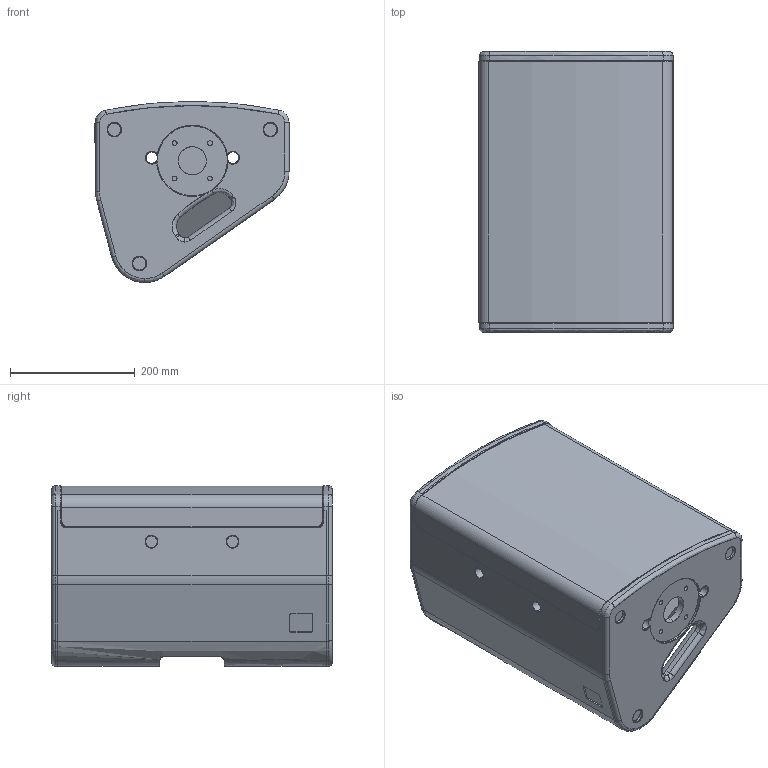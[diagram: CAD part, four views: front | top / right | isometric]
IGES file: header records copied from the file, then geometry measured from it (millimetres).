
Start section: SolidWorks IGES file using analytic representation for surfaces
Global section: file name: C:\Users\Michl\Documents\Michl\SolidWorks\X-Serie\3D-Dateien_Homepage\SEEBURG_X4.IGS; native system: SolidWorks 2009; preprocessor: SolidWorks 2009; author: Michl; date: 180920.103255; units: millimetre
Bounding box: 311 x 450 x 290 mm (x, y, z)
Surface area: 1313750.5 mm2 (no closed solid volume)
Topology: 0 solids, 0 shells, 492 faces, 6549 edges, 6549 vertices
Faces by surface type: revolution 270, bspline 222
